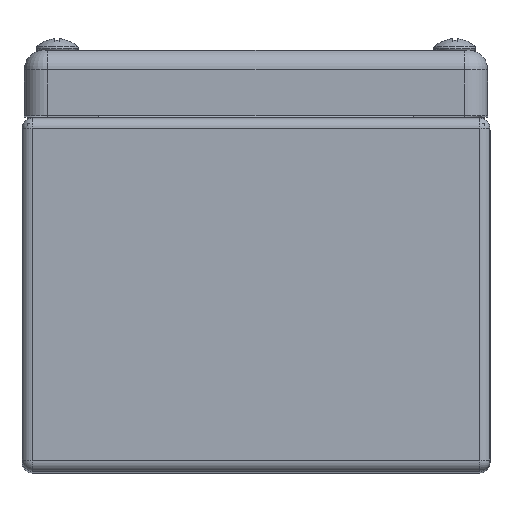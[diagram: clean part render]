
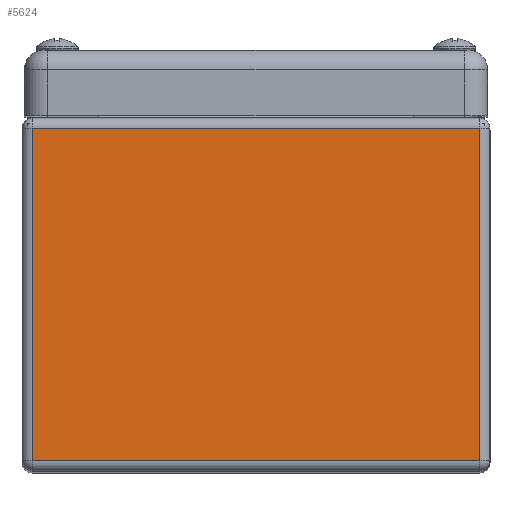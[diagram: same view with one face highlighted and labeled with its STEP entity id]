
A CAD part, top view. The second image highlights one B-rep face of the part: STEP entity #5624.
In plain terms, the highlighted planar face has unit normal (0, 0, 1).
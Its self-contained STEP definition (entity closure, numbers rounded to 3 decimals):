
#452 = FACE_OUTER_BOUND ( 'NONE', #5261, .T. ) ;
#461 = LINE ( 'NONE', #8181, #9720 ) ;
#637 = PLANE ( 'NONE',  #10388 ) ;
#647 = ORIENTED_EDGE ( 'NONE', *, *, #2149, .T. ) ;
#1026 = ORIENTED_EDGE ( 'NONE', *, *, #10765, .T. ) ;
#1135 = CARTESIAN_POINT ( 'NONE',  ( -47.8, 1.2, 110. ) ) ;
#2149 = EDGE_CURVE ( 'NONE', #5129, #2688, #9819, .T. ) ;
#2418 = ORIENTED_EDGE ( 'NONE', *, *, #8168, .T. ) ;
#2511 = EDGE_CURVE ( 'NONE', #11675, #5129, #11829, .T. ) ;
#2688 = VERTEX_POINT ( 'NONE', #6202 ) ;
#2877 = CARTESIAN_POINT ( 'NONE',  ( -50., 73.3, 110. ) ) ;
#3285 = VERTEX_POINT ( 'NONE', #9765 ) ;
#3750 = DIRECTION ( 'NONE',  ( 1., 0., 0. ) ) ;
#3860 = DIRECTION ( 'NONE',  ( 0., -1., 0. ) ) ;
#4057 = VECTOR ( 'NONE', #3750, 1000. ) ;
#5129 = VERTEX_POINT ( 'NONE', #9798 ) ;
#5261 = EDGE_LOOP ( 'NONE', ( #2418, #12409, #647, #1026 ) ) ;
#5587 = DIRECTION ( 'NONE',  ( 0., 0., -1. ) ) ;
#5624 = ADVANCED_FACE ( 'NONE', ( #452 ), #637, .F. ) ;
#5717 = CARTESIAN_POINT ( 'NONE',  ( 0., 2.2, 110. ) ) ;
#6202 = CARTESIAN_POINT ( 'NONE',  ( -47.8, 2.2, 110. ) ) ;
#6547 = LINE ( 'NONE', #5717, #4057 ) ;
#6637 = CARTESIAN_POINT ( 'NONE',  ( 47.8, 73.3, 110. ) ) ;
#7291 = CARTESIAN_POINT ( 'NONE',  ( 0., 1.2, 110. ) ) ;
#7831 = DIRECTION ( 'NONE',  ( -1., 0., 0. ) ) ;
#8168 = EDGE_CURVE ( 'NONE', #3285, #11675, #461, .T. ) ;
#8181 = CARTESIAN_POINT ( 'NONE',  ( 47.8, 75.5, 110. ) ) ;
#8244 = DIRECTION ( 'NONE',  ( 0., 1., 0. ) ) ;
#9720 = VECTOR ( 'NONE', #8244, 1000. ) ;
#9765 = CARTESIAN_POINT ( 'NONE',  ( 47.8, 2.2, 110. ) ) ;
#9798 = CARTESIAN_POINT ( 'NONE',  ( -47.8, 73.3, 110. ) ) ;
#9819 = LINE ( 'NONE', #1135, #11629 ) ;
#10388 = AXIS2_PLACEMENT_3D ( 'NONE', #7291, #5587, #11092 ) ;
#10765 = EDGE_CURVE ( 'NONE', #2688, #3285, #6547, .T. ) ;
#11092 = DIRECTION ( 'NONE',  ( -1., 0., 0. ) ) ;
#11233 = VECTOR ( 'NONE', #7831, 1000. ) ;
#11629 = VECTOR ( 'NONE', #3860, 1000. ) ;
#11675 = VERTEX_POINT ( 'NONE', #6637 ) ;
#11829 = LINE ( 'NONE', #2877, #11233 ) ;
#12409 = ORIENTED_EDGE ( 'NONE', *, *, #2511, .T. ) ;
